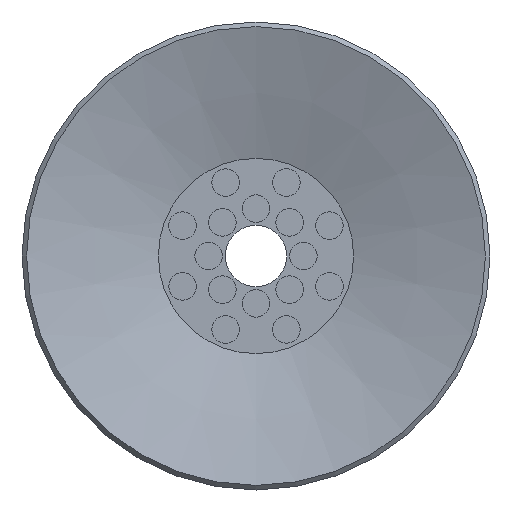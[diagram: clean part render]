
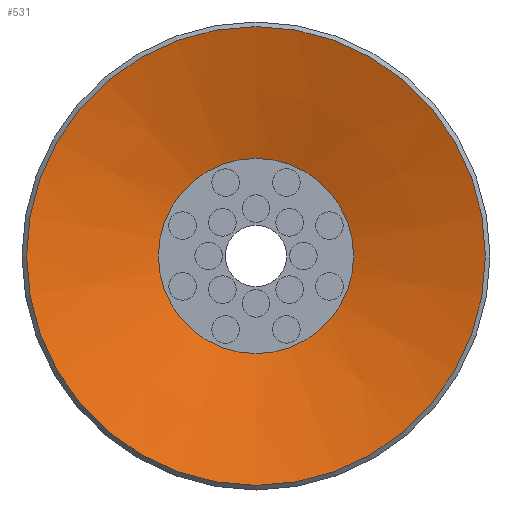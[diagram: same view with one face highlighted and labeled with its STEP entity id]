
A CAD part, front view. The second image highlights one B-rep face of the part: STEP entity #531.
In plain terms, the highlighted conical face has half-angle 72 degrees and reference radius 7.5 mm.
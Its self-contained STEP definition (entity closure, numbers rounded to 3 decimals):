
#531=ADVANCED_FACE('',(#815,#816),#817,.F.);
#815=FACE_BOUND('',#1205,.T.);
#816=FACE_OUTER_BOUND('',#1206,.T.);
#817=CONICAL_SURFACE('',#1207,7.5,1.257);
#1205=EDGE_LOOP('',(#1866));
#1206=EDGE_LOOP('',(#1867));
#1207=AXIS2_PLACEMENT_3D('',#1868,#1869,#1870);
#1866=ORIENTED_EDGE('',*,*,#2438,.T.);
#1867=ORIENTED_EDGE('',*,*,#2444,.F.);
#1868=CARTESIAN_POINT('',(0.0,0.,0.));
#1869=DIRECTION('',(0.0,0.,-1.0));
#1870=DIRECTION('',(0.0,1.0,0.));
#2438=EDGE_CURVE('',#2777,#2777,#2778,.T.);
#2444=EDGE_CURVE('',#2789,#2789,#2790,.T.);
#2777=VERTEX_POINT('',#3475);
#2778=CIRCLE('',#3476,3.191);
#2789=VERTEX_POINT('',#3487);
#2790=CIRCLE('',#3488,7.5);
#3475=CARTESIAN_POINT('',(0.0,-3.191,1.4));
#3476=AXIS2_PLACEMENT_3D('',#3979,#3980,#3981);
#3487=CARTESIAN_POINT('',(0.0,-7.5,0.));
#3488=AXIS2_PLACEMENT_3D('',#3997,#3998,#3999);
#3979=CARTESIAN_POINT('',(0.0,0.,1.4));
#3980=DIRECTION('',(0.0,0.,1.0));
#3981=DIRECTION('',(0.0,-1.0,0.));
#3997=CARTESIAN_POINT('',(0.0,0.,0.));
#3998=DIRECTION('',(0.0,0.,1.0));
#3999=DIRECTION('',(0.0,-1.0,0.));
